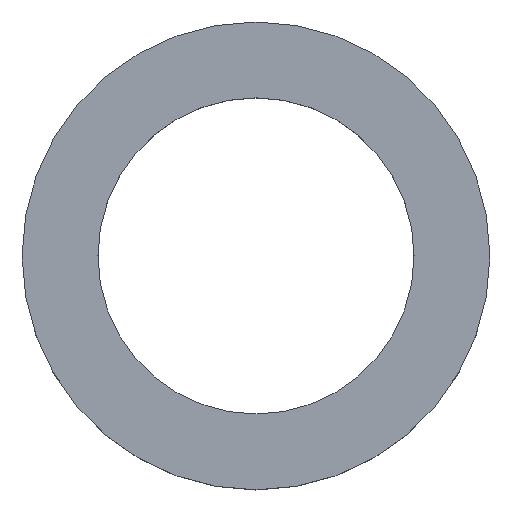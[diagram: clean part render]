
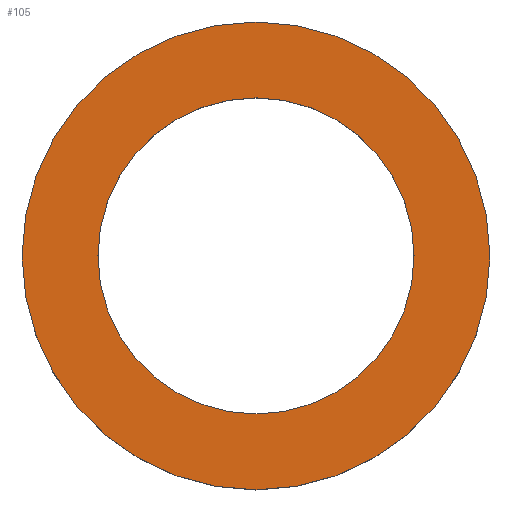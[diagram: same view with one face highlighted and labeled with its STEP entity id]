
A CAD part, top view. The second image highlights one B-rep face of the part: STEP entity #105.
In plain terms, the highlighted planar face has unit normal (0, 0, 1).
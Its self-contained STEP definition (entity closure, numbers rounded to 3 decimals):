
#21 = EDGE_CURVE('',#22,#22,#24,.T.);
#22 = VERTEX_POINT('',#23);
#23 = CARTESIAN_POINT('',(18.5,0.,-91.));
#24 = SURFACE_CURVE('',#25,(#30,#42),.PCURVE_S1.);
#25 = CIRCLE('',#26,18.5);
#26 = AXIS2_PLACEMENT_3D('',#27,#28,#29);
#27 = CARTESIAN_POINT('',(0.,0.,-91.));
#28 = DIRECTION('',(0.,0.,1.));
#29 = DIRECTION('',(1.,0.,-0.));
#30 = PCURVE('',#31,#36);
#31 = CYLINDRICAL_SURFACE('',#32,18.5);
#32 = AXIS2_PLACEMENT_3D('',#33,#34,#35);
#33 = CARTESIAN_POINT('',(0.,0.,-98.));
#34 = DIRECTION('',(0.,0.,1.));
#35 = DIRECTION('',(1.,0.,-0.));
#36 = DEFINITIONAL_REPRESENTATION('',(#37),#41);
#37 = LINE('',#38,#39);
#38 = CARTESIAN_POINT('',(0.,7.));
#39 = VECTOR('',#40,1.);
#40 = DIRECTION('',(1.,0.));
#41 = ( GEOMETRIC_REPRESENTATION_CONTEXT(2) 
PARAMETRIC_REPRESENTATION_CONTEXT() REPRESENTATION_CONTEXT('2D SPACE',''
  ) );
#42 = PCURVE('',#43,#48);
#43 = PLANE('',#44);
#44 = AXIS2_PLACEMENT_3D('',#45,#46,#47);
#45 = CARTESIAN_POINT('',(0.,0.,-91.));
#46 = DIRECTION('',(0.,0.,1.));
#47 = DIRECTION('',(1.,0.,-0.));
#48 = DEFINITIONAL_REPRESENTATION('',(#49),#53);
#49 = CIRCLE('',#50,18.5);
#50 = AXIS2_PLACEMENT_2D('',#51,#52);
#51 = CARTESIAN_POINT('',(0.,0.));
#52 = DIRECTION('',(1.,0.));
#53 = ( GEOMETRIC_REPRESENTATION_CONTEXT(2) 
PARAMETRIC_REPRESENTATION_CONTEXT() REPRESENTATION_CONTEXT('2D SPACE',''
  ) );
#105 = ADVANCED_FACE('',(#106,#109),#43,.T.);
#106 = FACE_BOUND('',#107,.T.);
#107 = EDGE_LOOP('',(#108));
#108 = ORIENTED_EDGE('',*,*,#21,.T.);
#109 = FACE_BOUND('',#110,.T.);
#110 = EDGE_LOOP('',(#111));
#111 = ORIENTED_EDGE('',*,*,#112,.F.);
#112 = EDGE_CURVE('',#113,#113,#115,.T.);
#113 = VERTEX_POINT('',#114);
#114 = CARTESIAN_POINT('',(12.5,0.,-91.));
#115 = SURFACE_CURVE('',#116,(#121,#128),.PCURVE_S1.);
#116 = CIRCLE('',#117,12.5);
#117 = AXIS2_PLACEMENT_3D('',#118,#119,#120);
#118 = CARTESIAN_POINT('',(0.,0.,-91.));
#119 = DIRECTION('',(0.,0.,1.));
#120 = DIRECTION('',(1.,0.,-0.));
#121 = PCURVE('',#43,#122);
#122 = DEFINITIONAL_REPRESENTATION('',(#123),#127);
#123 = CIRCLE('',#124,12.5);
#124 = AXIS2_PLACEMENT_2D('',#125,#126);
#125 = CARTESIAN_POINT('',(0.,0.));
#126 = DIRECTION('',(1.,0.));
#127 = ( GEOMETRIC_REPRESENTATION_CONTEXT(2) 
PARAMETRIC_REPRESENTATION_CONTEXT() REPRESENTATION_CONTEXT('2D SPACE',''
  ) );
#128 = PCURVE('',#129,#134);
#129 = CYLINDRICAL_SURFACE('',#130,12.5);
#130 = AXIS2_PLACEMENT_3D('',#131,#132,#133);
#131 = CARTESIAN_POINT('',(0.,0.,-98.5));
#132 = DIRECTION('',(0.,0.,1.));
#133 = DIRECTION('',(1.,0.,-0.));
#134 = DEFINITIONAL_REPRESENTATION('',(#135),#139);
#135 = LINE('',#136,#137);
#136 = CARTESIAN_POINT('',(0.,7.5));
#137 = VECTOR('',#138,1.);
#138 = DIRECTION('',(1.,0.));
#139 = ( GEOMETRIC_REPRESENTATION_CONTEXT(2) 
PARAMETRIC_REPRESENTATION_CONTEXT() REPRESENTATION_CONTEXT('2D SPACE',''
  ) );
